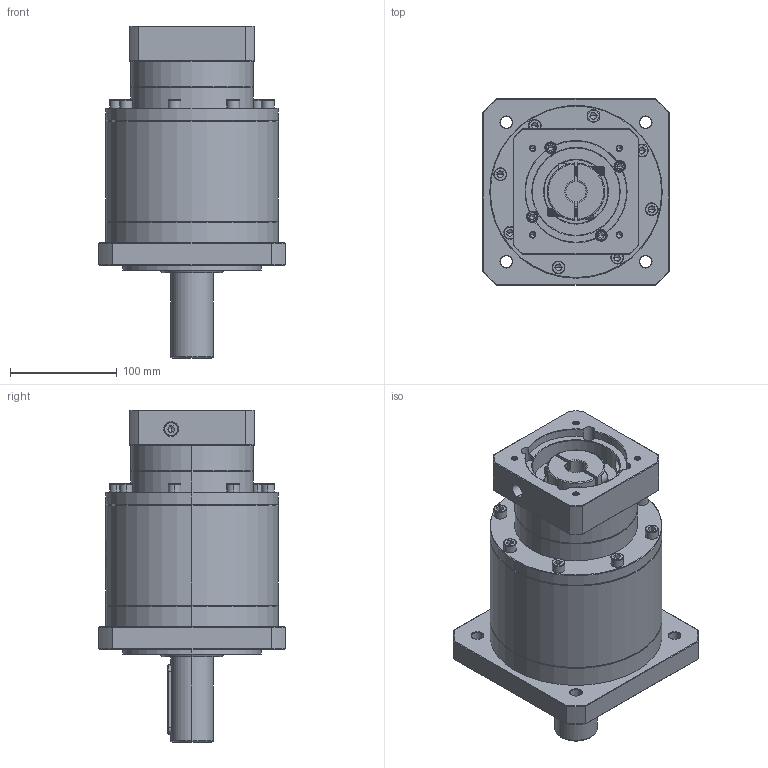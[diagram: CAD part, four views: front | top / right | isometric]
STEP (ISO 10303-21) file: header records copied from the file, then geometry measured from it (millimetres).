
FILE_DESCRIPTION (( 'STEP AP214' ), '1' );
FILE_NAME ('ZF160A-D40-L3-P2-19-95-115-M6.step', '2023-09-03T07:55:23', ( '' ), ( '' ), 'SwSTEP 2.0', 'SolidWorks 2016', '' );
FILE_SCHEMA (( 'AUTOMOTIVE_DESIGN' ));
Length unit declared in the file: millimetre
Products named in the file (1): ZF160A-D40-L3-P2-19-95-115-M6
Bounding box: 175 x 175 x 311.7 mm (x, y, z)
Volume: 4113195.2 mm3; surface area: 273238.7 mm2
Topology: 6 solids, 6 shells, 2442 faces, 6447 edges, 4128 vertices
Faces by surface type: plane 1119, cylinder 486, bspline 425, cone 374, torus 38
Entity records: 131692 total; most frequent: CARTESIAN_POINT 49653, ORIENTED_EDGE 12786, DIRECTION 9738, EDGE_CURVE 6393, VERTEX_POINT 4128, VECTOR 3384, LINE 3384, AXIS2_PLACEMENT_3D 3177
